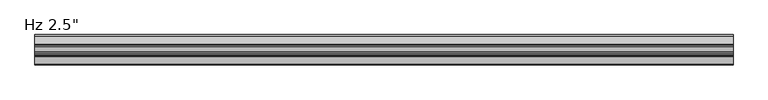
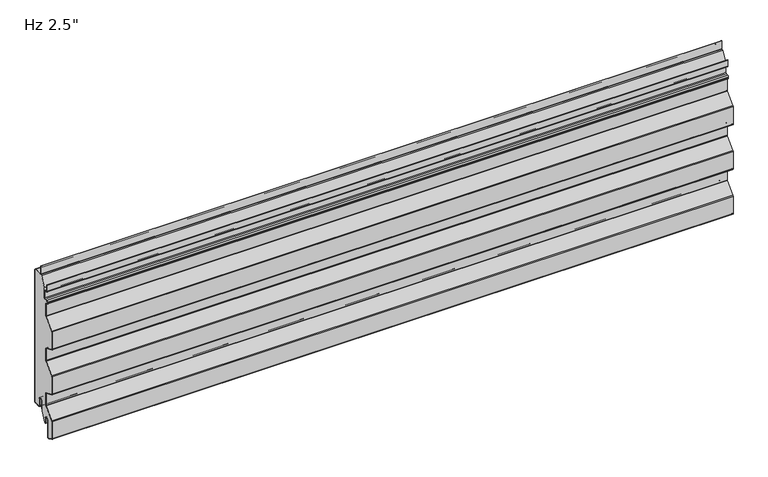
"""IFC4 building model written with IfcOpenShell, lengths in millimetres: plate geometry."""

from ifc_helpers import new_model, si_unit, point, frame, frame_2d, origin, place, context, project, spatial, polyline, circle_curve, trimmed, segment, composite_curve, outline, extrude, source, transform, mapped, element, save


def plate_6dabd823(model_context):
    return source(origin(), model_context, "Body", "SweptSolid", [
        extrude(outline(composite_curve([segment(polyline([(-26.4011912, 19.05), (-26.4011912, -3.1976612), (-36.533822, -23.01875), (-38.6886912, -23.01875), (-38.6886912, -11.90625)]), True, "CONTINUOUS"), segment(trimmed(circle_curve(frame_2d((-43.6574412, -11.90625)), 4.96875), [point((-38.6886912, -11.90625))], [point((-48.6261912, -11.90625))], True, "CARTESIAN"), True, "CONTINUOUS"), segment(polyline([(-48.6261912, -11.90625), (-48.6261912, -48.8194049)]), True, "CONTINUOUS"), segment(trimmed(circle_curve(frame_2d((-50.0074412, -48.8194049)), 1.38125), [point((-48.6261912, -48.8194049))], [point((-50.5666208, -50.0824052))], False, "CARTESIAN"), True, "CONTINUOUS"), segment(polyline([(-50.5666208, -50.0824052), (-61.6779296, -45.1629946)]), True, "CONTINUOUS"), segment(trimmed(circle_curve(frame_2d((-61.11875, -43.8999943)), 1.38125), [point((-61.6779296, -45.1629946))], [point((-62.5, -43.8999943))], False, "CARTESIAN"), True, "CONTINUOUS"), segment(polyline([(-62.5, -43.8999943), (-62.5, -5.0536946)]), True, "CONTINUOUS"), segment(trimmed(circle_curve(frame_2d((-60.4012, -5.0536946)), 2.0988), [point((-62.5, -5.0536946))], [point((-61.9092077, -3.5939431))], False, "CARTESIAN"), True, "CONTINUOUS"), segment(polyline([(-61.9092077, -3.5939431), (-41.7145567, 17.2682996)]), True, "CONTINUOUS"), segment(trimmed(circle_curve(frame_2d((-43.5737, 19.0679503)), 2.5875), [point((-41.7145567, 17.2682996))], [point((-40.9862, 19.0679503))], True, "CARTESIAN"), True, "CONTINUOUS"), segment(polyline([(-40.9862, 19.0679503), (-40.9862, 45.5917981)]), True, "CONTINUOUS"), segment(trimmed(circle_curve(frame_2d((-43.5737, 45.5917981)), 2.5875), [point((-40.9862, 45.5917981))], [point((-42.5261871, 47.9577806))], True, "CARTESIAN"), True, "CONTINUOUS"), segment(polyline([(-42.5261871, 47.9577806), (-61.6779296, 56.4370054)]), True, "CONTINUOUS"), segment(trimmed(circle_curve(frame_2d((-61.11875, 57.7000057)), 1.38125), [point((-61.6779296, 56.4370054))], [point((-62.5, 57.7000057))], False, "CARTESIAN"), True, "CONTINUOUS"), segment(polyline([(-62.5, 57.7000057), (-62.5, 96.8367131)]), True, "CONTINUOUS"), segment(trimmed(circle_curve(frame_2d((-61.11875, 96.8367131)), 1.38125), [point((-62.5, 96.8367131))], [point((-62.1111912, 97.7973962))], False, "CARTESIAN"), True, "CONTINUOUS"), segment(polyline([(-62.1111912, 97.7973962), (-41.7145567, 118.8682996)]), True, "CONTINUOUS"), segment(trimmed(circle_curve(frame_2d((-43.5737, 120.6679503)), 2.5875), [point((-41.7145567, 118.8682996))], [point((-40.9862, 120.6679503))], True, "CARTESIAN"), True, "CONTINUOUS"), segment(polyline([(-40.9862, 120.6679503), (-40.9862, 147.1917981)]), True, "CONTINUOUS"), segment(trimmed(circle_curve(frame_2d((-43.5737, 147.1917981)), 2.5875), [point((-40.9862, 147.1917981))], [point((-42.5261871, 149.5577806))], True, "CARTESIAN"), True, "CONTINUOUS"), segment(polyline([(-42.5261871, 149.5577806), (-61.6779296, 158.0370054)]), True, "CONTINUOUS"), segment(trimmed(circle_curve(frame_2d((-61.11875, 159.3000057)), 1.38125), [point((-61.6779296, 158.0370054))], [point((-62.5, 159.3000057))], False, "CARTESIAN"), True, "CONTINUOUS"), segment(polyline([(-62.5, 159.3000057), (-62.5, 198.4367131)]), True, "CONTINUOUS"), segment(trimmed(circle_curve(frame_2d((-61.11875, 198.4367131)), 1.38125), [point((-62.5, 198.4367131))], [point((-62.1111912, 199.3973962))], False, "CARTESIAN"), True, "CONTINUOUS"), segment(polyline([(-62.1111912, 199.3973962), (-41.7145567, 220.4682996)]), True, "CONTINUOUS"), segment(trimmed(circle_curve(frame_2d((-43.5737, 222.2679503)), 2.5875), [point((-41.7145567, 220.4682996))], [point((-40.9862, 222.2679503))], True, "CARTESIAN"), True, "CONTINUOUS"), segment(polyline([(-40.9862, 222.2679503), (-40.9862, 248.7917981)]), True, "CONTINUOUS"), segment(trimmed(circle_curve(frame_2d((-43.5737, 248.7917981)), 2.5875), [point((-40.9862, 248.7917981))], [point((-42.5261871, 251.1577806))], True, "CARTESIAN"), True, "CONTINUOUS"), segment(polyline([(-42.5261871, 251.1577806), (-44.2166208, 251.9062016)]), True, "CONTINUOUS"), segment(trimmed(circle_curve(frame_2d((-43.6574412, 253.1692019)), 1.38125), [point((-44.2166208, 251.9062016))], [point((-45.0386912, 253.1692019))], False, "CARTESIAN"), True, "CONTINUOUS"), segment(polyline([(-45.0386912, 253.1692019), (-45.0386912, 255.4967085)]), True, "CONTINUOUS"), segment(trimmed(circle_curve(frame_2d((-43.6574412, 255.4967085)), 1.38125), [point((-45.0386912, 255.4967085))], [point((-43.7297302, 256.8760655))], False, "CARTESIAN"), True, "CONTINUOUS"), segment(polyline([(-43.7297302, 256.8760655), (-37.9657719, 257.1781418)]), True, "CONTINUOUS"), segment(trimmed(circle_curve(frame_2d((-38.1011912, 259.7620957)), 2.5875), [point((-37.9657719, 257.1781418))], [point((-35.5136912, 259.7620957))], True, "CARTESIAN"), True, "CONTINUOUS"), segment(polyline([(-35.5136912, 259.7620957), (-35.5136912, 282.1892934), (-24.8719682, 303.00625), (-2.3824412, 303.00625)]), True, "CONTINUOUS"), segment(trimmed(circle_curve(frame_2d((-2.3824412, 301.625)), 1.38125), [point((-2.3824412, 303.00625))], [point((-1.0011912, 301.625))], False, "CARTESIAN"), True, "CONTINUOUS"), segment(polyline([(-1.0011912, 301.625), (-1.0011912, 3.175)]), True, "CONTINUOUS"), segment(trimmed(circle_curve(frame_2d((-2.3824412, 3.175)), 1.38125), [point((-1.0011912, 3.175))], [point((-2.3824412, 1.79375))], False, "CARTESIAN"), True, "CONTINUOUS"), segment(polyline([(-2.3824412, 1.79375), (-15.0824412, 1.79375)]), True, "CONTINUOUS"), segment(trimmed(circle_curve(frame_2d((-15.0824412, 3.175)), 1.38125), [point((-15.0824412, 1.79375))], [point((-16.4636912, 3.175))], False, "CARTESIAN"), True, "CONTINUOUS"), segment(polyline([(-16.4636912, 3.175), (-16.4636912, 19.05)]), True, "CONTINUOUS"), segment(trimmed(circle_curve(frame_2d((-21.4324412, 19.05)), 4.96875), [point((-16.4636912, 19.05))], [point((-26.4011912, 19.05))], True, "CARTESIAN"), True, "CONTINUOUS")], self_intersect=False)), frame((-730.0, 0.0, 0.0), z_axis=(1.0, 0.0, 0.0), x_axis=(0.0, 1.0, 0.0)), (0.0, 0.0, 1.0), 1460.0),
        extrude(outline(composite_curve([segment(polyline([(-25.4, 0.79375), (-26.4, 0.79375), (-26.4, 19.05)]), True, "CONTINUOUS"), segment(trimmed(circle_curve(frame_2d((-21.43125, 19.05)), 4.96875), [point((-26.4, 19.05))], [point((-16.4625, 19.05))], False, "CARTESIAN"), True, "CONTINUOUS"), segment(polyline([(-16.4625, 19.05), (-16.4625, 3.175)]), True, "CONTINUOUS"), segment(trimmed(circle_curve(frame_2d((-15.08125, 3.175)), 1.38125), [point((-16.4625, 3.175))], [point((-15.08125, 1.79375))], True, "CARTESIAN"), True, "CONTINUOUS"), segment(polyline([(-15.08125, 1.79375), (-2.38125, 1.79375)]), True, "CONTINUOUS"), segment(trimmed(circle_curve(frame_2d((-2.38125, 3.175)), 1.38125), [point((-2.38125, 1.79375))], [point((-1.0, 3.175))], True, "CARTESIAN"), True, "CONTINUOUS"), segment(polyline([(-1.0, 3.175), (-1.0, 301.625)]), True, "CONTINUOUS"), segment(trimmed(circle_curve(frame_2d((-2.38125, 301.625)), 1.38125), [point((-1.0, 301.625))], [point((-2.38125, 303.00625))], True, "CARTESIAN"), True, "CONTINUOUS"), segment(polyline([(-2.38125, 303.00625), (-19.446875, 303.00625)]), True, "CONTINUOUS"), segment(trimmed(circle_curve(frame_2d((-19.446875, 305.59375)), 2.5875), [point((-19.446875, 303.00625))], [point((-22.034375, 305.59375))], False, "CARTESIAN"), True, "CONTINUOUS"), segment(polyline([(-22.034375, 305.59375), (-22.034375, 323.05625), (-21.034375, 323.05625), (-21.034375, 305.59375)]), True, "CONTINUOUS"), segment(trimmed(circle_curve(frame_2d((-19.446875, 305.59375)), 1.5875), [point((-21.034375, 305.59375))], [point((-19.446875, 304.00625))], True, "CARTESIAN"), True, "CONTINUOUS"), segment(polyline([(-19.446875, 304.00625), (-2.38125, 304.00625)]), True, "CONTINUOUS"), segment(trimmed(circle_curve(frame_2d((-2.38125, 301.625)), 2.38125), [point((-2.38125, 304.00625))], [point((0.0, 301.625))], False, "CARTESIAN"), True, "CONTINUOUS"), segment(polyline([(0.0, 301.625), (0.0, 3.175)]), True, "CONTINUOUS"), segment(trimmed(circle_curve(frame_2d((-2.38125, 3.175)), 2.38125), [point((0.0, 3.175))], [point((-2.38125, 0.79375))], False, "CARTESIAN"), True, "CONTINUOUS"), segment(polyline([(-2.38125, 0.79375), (-15.08125, 0.79375)]), True, "CONTINUOUS"), segment(trimmed(circle_curve(frame_2d((-15.08125, 3.175)), 2.38125), [point((-15.08125, 0.79375))], [point((-17.4625, 3.175))], False, "CARTESIAN"), True, "CONTINUOUS"), segment(polyline([(-17.4625, 3.175), (-17.4625, 19.05)]), True, "CONTINUOUS"), segment(trimmed(circle_curve(frame_2d((-21.43125, 19.05)), 3.96875), [point((-17.4625, 19.05))], [point((-25.4, 19.05))], True, "CARTESIAN"), True, "CONTINUOUS"), segment(polyline([(-25.4, 19.05), (-25.4, 0.79375)]), True, "CONTINUOUS")], self_intersect=False)), frame((-730.0, 0.0, 0.0), z_axis=(1.0, 0.0, 0.0), x_axis=(0.0, 1.0, 0.0)), (0.0, 0.0, 1.0), 1460.0),
        extrude(outline(composite_curve([segment(polyline([(-47.6261912, -11.90625), (-47.6261912, -48.8194049)]), True, "CONTINUOUS"), segment(trimmed(circle_curve(frame_2d((-50.0074412, -48.8194049)), 2.38125), [point((-47.6261912, -48.8194049))], [point((-50.9714567, -50.9967946))], False, "CARTESIAN"), True, "CONTINUOUS"), segment(polyline([(-50.9714567, -50.9967946), (-62.0827655, -46.0773839)]), True, "CONTINUOUS"), segment(trimmed(circle_curve(frame_2d((-61.11875, -43.8999943)), 2.38125), [point((-62.0827655, -46.0773839))], [point((-63.5, -43.8999943))], False, "CARTESIAN"), True, "CONTINUOUS"), segment(polyline([(-63.5, -43.8999943), (-63.5, -5.0536946)]), True, "CONTINUOUS"), segment(trimmed(circle_curve(frame_2d((-60.4012, -5.0536946)), 3.0988), [point((-63.5, -5.0536946))], [point((-62.6277172, -2.8984259))], False, "CARTESIAN"), True, "CONTINUOUS"), segment(polyline([(-62.6277172, -2.8984259), (-42.4330662, 17.9638168)]), True, "CONTINUOUS"), segment(trimmed(circle_curve(frame_2d((-43.5737, 19.0679503)), 1.5875), [point((-42.4330662, 17.9638168))], [point((-41.9862, 19.0679503))], True, "CARTESIAN"), True, "CONTINUOUS"), segment(polyline([(-41.9862, 19.0679503), (-41.9862, 45.5917981)]), True, "CONTINUOUS"), segment(trimmed(circle_curve(frame_2d((-43.5737, 45.5917981)), 1.5875), [point((-41.9862, 45.5917981))], [point((-42.931023, 47.0433912))], True, "CARTESIAN"), True, "CONTINUOUS"), segment(polyline([(-42.931023, 47.0433912), (-62.0827655, 55.5226161)]), True, "CONTINUOUS"), segment(trimmed(circle_curve(frame_2d((-61.11875, 57.7000057)), 2.38125), [point((-62.0827655, 55.5226161))], [point((-63.5, 57.7000057))], False, "CARTESIAN"), True, "CONTINUOUS"), segment(polyline([(-63.5, 57.7000057), (-63.5, 96.8367131)]), True, "CONTINUOUS"), segment(trimmed(circle_curve(frame_2d((-61.11875, 96.8367131)), 2.38125), [point((-63.5, 96.8367131))], [point((-62.8297007, 98.4929134))], False, "CARTESIAN"), True, "CONTINUOUS"), segment(polyline([(-62.8297007, 98.4929134), (-42.4330662, 119.5638168)]), True, "CONTINUOUS"), segment(trimmed(circle_curve(frame_2d((-43.5737, 120.6679503)), 1.5875), [point((-42.4330662, 119.5638168))], [point((-41.9862, 120.6679503))], True, "CARTESIAN"), True, "CONTINUOUS"), segment(polyline([(-41.9862, 120.6679503), (-41.9862, 147.1917981)]), True, "CONTINUOUS"), segment(trimmed(circle_curve(frame_2d((-43.5737, 147.1917981)), 1.5875), [point((-41.9862, 147.1917981))], [point((-42.931023, 148.6433912))], True, "CARTESIAN"), True, "CONTINUOUS"), segment(polyline([(-42.931023, 148.6433912), (-62.0827655, 157.1226161)]), True, "CONTINUOUS"), segment(trimmed(circle_curve(frame_2d((-61.11875, 159.3000057)), 2.38125), [point((-62.0827655, 157.1226161))], [point((-63.5, 159.3000057))], False, "CARTESIAN"), True, "CONTINUOUS"), segment(polyline([(-63.5, 159.3000057), (-63.5, 198.4367131)]), True, "CONTINUOUS"), segment(trimmed(circle_curve(frame_2d((-61.11875, 198.4367131)), 2.38125), [point((-63.5, 198.4367131))], [point((-62.8297007, 200.0929134))], False, "CARTESIAN"), True, "CONTINUOUS"), segment(polyline([(-62.8297007, 200.0929134), (-42.4330662, 221.1638168)]), True, "CONTINUOUS"), segment(trimmed(circle_curve(frame_2d((-43.5737, 222.2679503)), 1.5875), [point((-42.4330662, 221.1638168))], [point((-41.9862, 222.2679503))], True, "CARTESIAN"), True, "CONTINUOUS"), segment(polyline([(-41.9862, 222.2679503), (-41.9862, 248.7917981)]), True, "CONTINUOUS"), segment(trimmed(circle_curve(frame_2d((-43.5737, 248.7917981)), 1.5875), [point((-41.9862, 248.7917981))], [point((-42.931023, 250.2433912))], True, "CARTESIAN"), True, "CONTINUOUS"), segment(polyline([(-42.931023, 250.2433912), (-44.6214567, 250.9918123)]), True, "CONTINUOUS"), segment(trimmed(circle_curve(frame_2d((-43.6574412, 253.1692019)), 2.38125), [point((-44.6214567, 250.9918123))], [point((-46.0386912, 253.1692019))], False, "CARTESIAN"), True, "CONTINUOUS"), segment(polyline([(-46.0386912, 253.1692019), (-46.0386912, 255.4967085)]), True, "CONTINUOUS"), segment(trimmed(circle_curve(frame_2d((-43.6574412, 255.4967085)), 2.38125), [point((-46.0386912, 255.4967085))], [point((-43.7820662, 257.8746951))], False, "CARTESIAN"), True, "CONTINUOUS"), segment(polyline([(-43.7820662, 257.8746951), (-38.0181078, 258.1767713)]), True, "CONTINUOUS"), segment(trimmed(circle_curve(frame_2d((-38.1011912, 259.7620957)), 1.5875), [point((-38.0181078, 258.1767713))], [point((-36.5136912, 259.7620957))], True, "CARTESIAN"), True, "CONTINUOUS"), segment(polyline([(-36.5136912, 259.7620957), (-36.5136912, 274.6375)]), True, "CONTINUOUS"), segment(trimmed(circle_curve(frame_2d((-38.1011912, 274.6375)), 1.5875), [point((-36.5136912, 274.6375))], [point((-38.1011912, 276.225))], True, "CARTESIAN"), True, "CONTINUOUS"), segment(polyline([(-38.1011912, 276.225), (-41.6730662, 276.225)]), True, "CONTINUOUS"), segment(trimmed(circle_curve(frame_2d((-41.6730662, 278.60625)), 2.38125), [point((-41.6730662, 276.225))], [point((-44.0543162, 278.60625))], False, "CARTESIAN"), True, "CONTINUOUS"), segment(polyline([(-44.0543162, 278.60625), (-44.0543162, 292.89375), (-43.0543162, 292.89375), (-43.0543162, 278.60625)]), True, "CONTINUOUS"), segment(trimmed(circle_curve(frame_2d((-41.6730662, 278.60625)), 1.38125), [point((-43.0543162, 278.60625))], [point((-41.6730662, 277.225))], True, "CARTESIAN"), True, "CONTINUOUS"), segment(polyline([(-41.6730662, 277.225), (-38.1011912, 277.225)]), True, "CONTINUOUS"), segment(trimmed(circle_curve(frame_2d((-38.1011912, 274.6375)), 2.5875), [point((-38.1011912, 277.225))], [point((-35.5136912, 274.6375))], False, "CARTESIAN"), True, "CONTINUOUS"), segment(polyline([(-35.5136912, 274.6375), (-35.5136912, 259.7620957)]), True, "CONTINUOUS"), segment(trimmed(circle_curve(frame_2d((-38.1011912, 259.7620957)), 2.5875), [point((-35.5136912, 259.7620957))], [point((-37.9657719, 257.1781418))], False, "CARTESIAN"), True, "CONTINUOUS"), segment(polyline([(-37.9657719, 257.1781418), (-43.7297302, 256.8760655)]), True, "CONTINUOUS"), segment(trimmed(circle_curve(frame_2d((-43.6574412, 255.4967085)), 1.38125), [point((-43.7297302, 256.8760655))], [point((-45.0386912, 255.4967085))], True, "CARTESIAN"), True, "CONTINUOUS"), segment(polyline([(-45.0386912, 255.4967085), (-45.0386912, 253.1692019)]), True, "CONTINUOUS"), segment(trimmed(circle_curve(frame_2d((-43.6574412, 253.1692019)), 1.38125), [point((-45.0386912, 253.1692019))], [point((-44.2166208, 251.9062016))], True, "CARTESIAN"), True, "CONTINUOUS"), segment(polyline([(-44.2166208, 251.9062016), (-42.5261871, 251.1577806)]), True, "CONTINUOUS"), segment(trimmed(circle_curve(frame_2d((-43.5737, 248.7917981)), 2.5875), [point((-42.5261871, 251.1577806))], [point((-40.9862, 248.7917981))], False, "CARTESIAN"), True, "CONTINUOUS"), segment(polyline([(-40.9862, 248.7917981), (-40.9862, 222.2679503)]), True, "CONTINUOUS"), segment(trimmed(circle_curve(frame_2d((-43.5737, 222.2679503)), 2.5875), [point((-40.9862, 222.2679503))], [point((-41.7145567, 220.4682996))], False, "CARTESIAN"), True, "CONTINUOUS"), segment(polyline([(-41.7145567, 220.4682996), (-62.1111912, 199.3973962)]), True, "CONTINUOUS"), segment(trimmed(circle_curve(frame_2d((-61.11875, 198.4367131)), 1.38125), [point((-62.1111912, 199.3973962))], [point((-62.5, 198.4367131))], True, "CARTESIAN"), True, "CONTINUOUS"), segment(polyline([(-62.5, 198.4367131), (-62.5, 159.3000057)]), True, "CONTINUOUS"), segment(trimmed(circle_curve(frame_2d((-61.11875, 159.3000057)), 1.38125), [point((-62.5, 159.3000057))], [point((-61.6779296, 158.0370054))], True, "CARTESIAN"), True, "CONTINUOUS"), segment(polyline([(-61.6779296, 158.0370054), (-42.5261871, 149.5577806)]), True, "CONTINUOUS"), segment(trimmed(circle_curve(frame_2d((-43.5737, 147.1917981)), 2.5875), [point((-42.5261871, 149.5577806))], [point((-40.9862, 147.1917981))], False, "CARTESIAN"), True, "CONTINUOUS"), segment(polyline([(-40.9862, 147.1917981), (-40.9862, 120.6679503)]), True, "CONTINUOUS"), segment(trimmed(circle_curve(frame_2d((-43.5737, 120.6679503)), 2.5875), [point((-40.9862, 120.6679503))], [point((-41.7145567, 118.8682996))], False, "CARTESIAN"), True, "CONTINUOUS"), segment(polyline([(-41.7145567, 118.8682996), (-62.1111912, 97.7973962)]), True, "CONTINUOUS"), segment(trimmed(circle_curve(frame_2d((-61.11875, 96.8367131)), 1.38125), [point((-62.1111912, 97.7973962))], [point((-62.5, 96.8367131))], True, "CARTESIAN"), True, "CONTINUOUS"), segment(polyline([(-62.5, 96.8367131), (-62.5, 57.7000057)]), True, "CONTINUOUS"), segment(trimmed(circle_curve(frame_2d((-61.11875, 57.7000057)), 1.38125), [point((-62.5, 57.7000057))], [point((-61.6779296, 56.4370054))], True, "CARTESIAN"), True, "CONTINUOUS"), segment(polyline([(-61.6779296, 56.4370054), (-42.5261871, 47.9577806)]), True, "CONTINUOUS"), segment(trimmed(circle_curve(frame_2d((-43.5737, 45.5917981)), 2.5875), [point((-42.5261871, 47.9577806))], [point((-40.9862, 45.5917981))], False, "CARTESIAN"), True, "CONTINUOUS"), segment(polyline([(-40.9862, 45.5917981), (-40.9862, 19.0679503)]), True, "CONTINUOUS"), segment(trimmed(circle_curve(frame_2d((-43.5737, 19.0679503)), 2.5875), [point((-40.9862, 19.0679503))], [point((-41.7145567, 17.2682996))], False, "CARTESIAN"), True, "CONTINUOUS"), segment(polyline([(-41.7145567, 17.2682996), (-61.9092077, -3.5939431)]), True, "CONTINUOUS"), segment(trimmed(circle_curve(frame_2d((-60.4012, -5.0536946)), 2.0988), [point((-61.9092077, -3.5939431))], [point((-62.5, -5.0536946))], True, "CARTESIAN"), True, "CONTINUOUS"), segment(polyline([(-62.5, -5.0536946), (-62.5, -43.8999943)]), True, "CONTINUOUS"), segment(trimmed(circle_curve(frame_2d((-61.11875, -43.8999943)), 1.38125), [point((-62.5, -43.8999943))], [point((-61.6779296, -45.1629946))], True, "CARTESIAN"), True, "CONTINUOUS"), segment(polyline([(-61.6779296, -45.1629946), (-50.5666208, -50.0824052)]), True, "CONTINUOUS"), segment(trimmed(circle_curve(frame_2d((-50.0074412, -48.8194049)), 1.38125), [point((-50.5666208, -50.0824052))], [point((-48.6261912, -48.8194049))], True, "CARTESIAN"), True, "CONTINUOUS"), segment(polyline([(-48.6261912, -48.8194049), (-48.6261912, -11.90625)]), True, "CONTINUOUS"), segment(trimmed(circle_curve(frame_2d((-43.6574412, -11.90625)), 4.96875), [point((-48.6261912, -11.90625))], [point((-38.6886912, -11.90625))], False, "CARTESIAN"), True, "CONTINUOUS"), segment(polyline([(-38.6886912, -11.90625), (-38.6886912, -23.01875), (-39.6886912, -23.01875), (-39.6886912, -11.90625)]), True, "CONTINUOUS"), segment(trimmed(circle_curve(frame_2d((-43.6574412, -11.90625)), 3.96875), [point((-39.6886912, -11.90625))], [point((-47.6261912, -11.90625))], True, "CARTESIAN"), True, "CONTINUOUS")], self_intersect=False)), frame((-730.0, 0.0, 0.0), z_axis=(1.0, 0.0, 0.0), x_axis=(0.0, 1.0, 0.0)), (0.0, 0.0, 1.0), 1460.0),
    ])


if __name__ == "__main__":
    model = new_model("IFC4")
    model_context = context("Model", 3, world=origin())
    ifc_project = project(units=[si_unit("LENGTHUNIT", "METRE", prefix="MILLI")], contexts=[model_context])
    site = spatial("IfcSite", under=ifc_project)
    building = spatial("IfcBuilding", under=site)
    placement = place(None, origin())
    plate_shape = plate_6dabd823(model_context)
    element("IfcPlate", 1, ObjectType="KIP-12-DWR-R19-CP-Hz-S : Hz 2.5\"", at=placement, inside=building, context=model_context, shape_type="MappedRepresentation", body=[
        mapped(plate_shape, transform((0.0, 0.0, 0.0), x_axis=(1.0, 0.0, 0.0), y_axis=(0.0, 1.0, 0.0), z_axis=(0.0, 0.0, 1.0))),
    ])
    save(model, "model.ifc")
